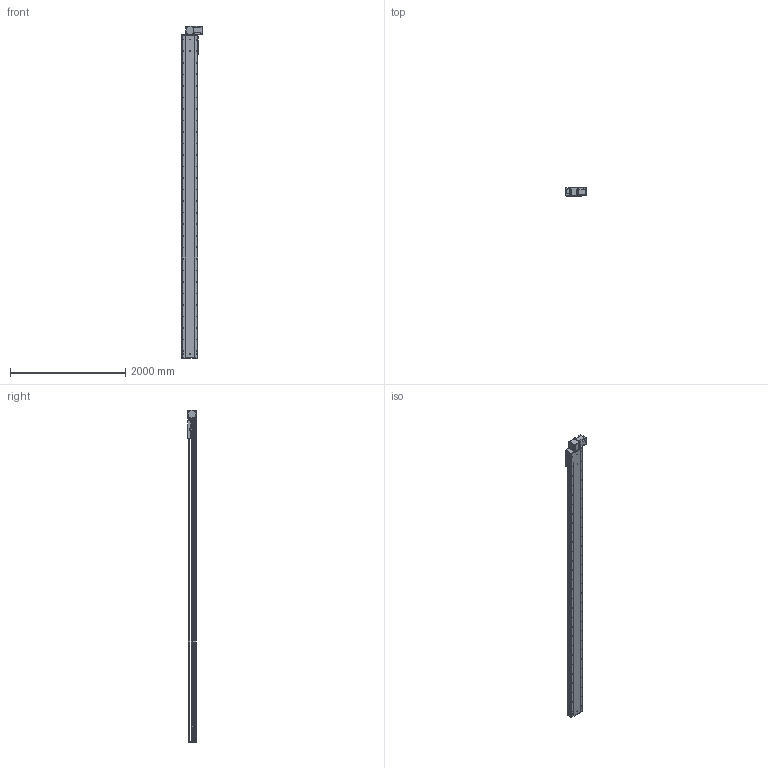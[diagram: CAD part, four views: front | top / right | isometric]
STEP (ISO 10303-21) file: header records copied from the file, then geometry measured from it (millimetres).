
FILE_DESCRIPTION (( 'STEP AP214' ), '1' );
FILE_NAME ('RTB28S-XX-5150-BL-M100-XX-C4.STEP', '2025-12-22T02:53:50', ( '' ), ( '' ), 'SwSTEP 2.0', 'SolidWorks 2018', '' );
FILE_SCHEMA (( 'AUTOMOTIVE_DESIGN' ));
Length unit declared in the file: millimetre
Products named in the file (4): RTB28S-GY-004^RTB28S-XX-XX-BL-M100-XX-C4; RTB28S-GY-011^RTB28S-XX-XX-BL-M100-XX-C4; RTB28S-XX-5150-BL-M100-XX-C4; RTB28S-GY-008^RTB28S-XX-XX-BL-M100-XX-C4
Assembly tree (3 placements, depth 2):
  RTB28S-XX-5150-BL-M100-XX-C4
    RTB28S-GY-011^RTB28S-XX-XX-BL-M100-XX-C4
    RTB28S-GY-004^RTB28S-XX-XX-BL-M100-XX-C4
    RTB28S-GY-008^RTB28S-XX-XX-BL-M100-XX-C4
Bounding box: 380.7 x 145 x 5757 mm (x, y, z)
Volume: 94962667.5 mm3; surface area: 8760360.9 mm2
Topology: 3 solids, 4 shells, 998 faces, 2718 edges, 1748 vertices
Faces by surface type: cylinder 527, plane 387, cone 80, torus 4
Entity records: 39719 total; most frequent: CARTESIAN_POINT 8152, DIRECTION 5808, ORIENTED_EDGE 5372, EDGE_CURVE 2686, AXIS2_PLACEMENT_3D 2184, VERTEX_POINT 1748, LINE 1440, VECTOR 1440
